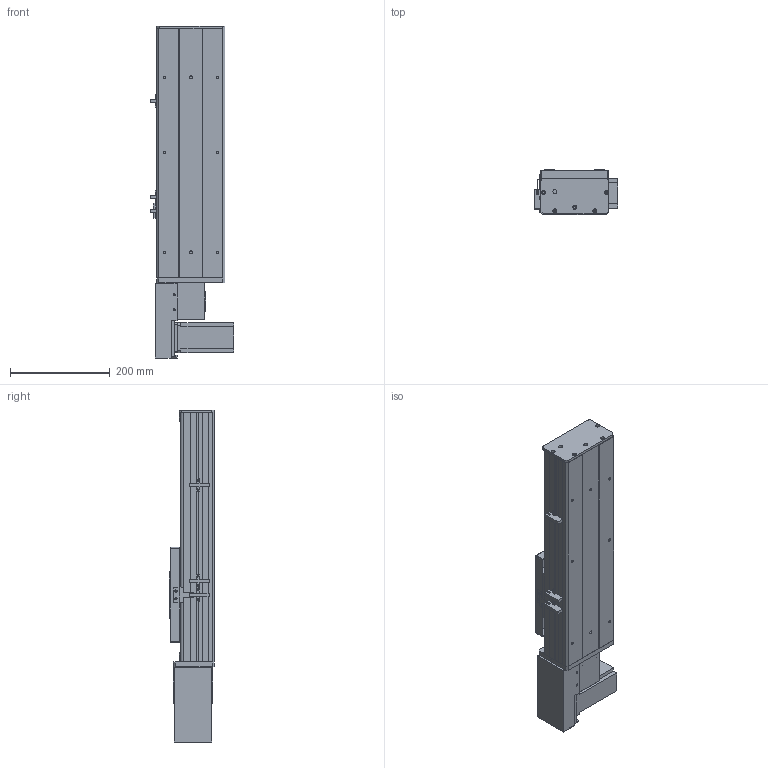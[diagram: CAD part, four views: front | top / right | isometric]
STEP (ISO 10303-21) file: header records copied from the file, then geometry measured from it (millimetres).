
FILE_DESCRIPTION (( 'STEP AP203' ), '1' );
FILE_NAME ('Y135CB-D90-S200-BR-P400W.STEP', '2020-02-18T02:07:18', ( '微软用户' ), ( '微软中国' ), 'SwSTEP 2.0', 'SolidWorks 2017', '' );
FILE_SCHEMA (( 'CONFIG_CONTROL_DESIGN' ));
Length unit declared in the file: millimetre
Products named in the file (18): 135CB---遴掛极.-; C-詩湍揤踡え-陔; 35CB---喘謫眊楊擘啣; Y100-135俋离換覜ん--; 135CB--詩湍-CE; Y10B-耜蚾蟀諉啣----; Y135C-陔俋离換覜結え-; Y俋欶BR----; 5C--俋欶; 0B-埴倛裔啣; C-雄赽釱--; 0B-源倛裔啣; Y10B--々湍喘謫眊--666; 0B-萇儂楊擘啣; Y135CB-D90-S200-BR-P400W; san松下电机400不带刹车----; Y135CB-耜裔; 5CB --掛极耜裔啣-
Assembly tree (21 placements, depth 2):
  Y135CB-D90-S200-BR-P400W
    Y135CB-耜裔
    135CB---遴掛极.-
    35CB---喘謫眊楊擘啣
    Y10B-耜蚾蟀諉啣----
    Y俋欶BR----
    0B-埴倛裔啣
    0B-源倛裔啣
    0B-萇儂楊擘啣
    san松下电机400不带刹车----
    5CB --掛极耜裔啣-  x2
    C-詩湍揤踡え-陔  x2
    135CB--詩湍-CE
    Y100-135俋离換覜ん--  x3
    Y135C-陔俋离換覜結え-
    5C--俋欶
    C-雄赽釱--
    Y10B--々湍喘謫眊--666
Bounding box: 167.5 x 91 x 664.5 mm (x, y, z)
Volume: 2309773.3 mm3; surface area: 883307.7 mm2
Topology: 21 solids, 21 shells, 929 faces, 2455 edges, 1626 vertices
Faces by surface type: plane 458, cylinder 455, cone 16
Entity records: 28533 total; most frequent: DIRECTION 4735, CARTESIAN_POINT 4636, ORIENTED_EDGE 4386, EDGE_CURVE 2193, AXIS2_PLACEMENT_3D 1717, VERTEX_POINT 1454, LINE 1301, VECTOR 1301
